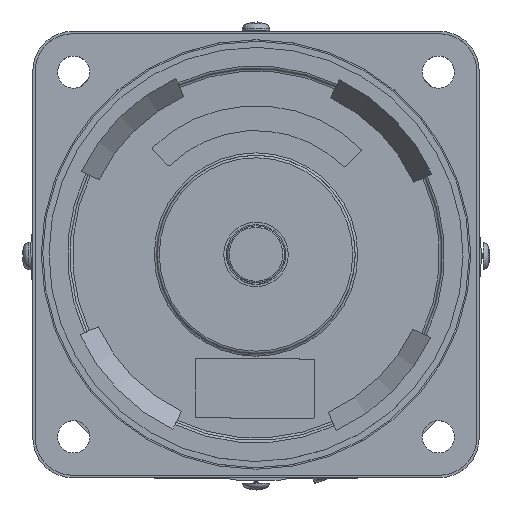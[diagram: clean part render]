
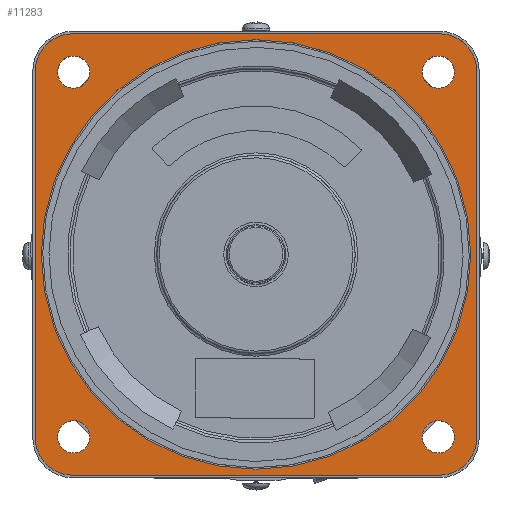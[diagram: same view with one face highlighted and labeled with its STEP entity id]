
A CAD part, top view. The second image highlights one B-rep face of the part: STEP entity #11283.
In plain terms, the highlighted planar face has unit normal (0, 0, 1).
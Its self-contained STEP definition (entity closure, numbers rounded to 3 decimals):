
#590=FACE_BOUND('',#1622,.T.);
#591=FACE_BOUND('',#1623,.T.);
#592=FACE_BOUND('',#1624,.T.);
#593=FACE_BOUND('',#1625,.T.);
#594=FACE_BOUND('',#1626,.T.);
#717=PLANE('',#11961);
#974=FACE_OUTER_BOUND('',#1621,.T.);
#1621=EDGE_LOOP('',(#7221,#7222,#7223,#7224,#7225,#7226,#7227,#7228));
#1622=EDGE_LOOP('',(#7229));
#1623=EDGE_LOOP('',(#7230));
#1624=EDGE_LOOP('',(#7231));
#1625=EDGE_LOOP('',(#7232));
#1626=EDGE_LOOP('',(#7233));
#2441=CIRCLE('',#11962,7.5);
#2442=CIRCLE('',#11963,7.5);
#2443=CIRCLE('',#11964,7.5);
#2444=CIRCLE('',#11965,7.5);
#2445=CIRCLE('',#11966,3.25);
#2446=CIRCLE('',#11967,3.25);
#2447=CIRCLE('',#11968,43.3);
#2448=CIRCLE('',#11969,3.25);
#2449=CIRCLE('',#11970,3.25);
#3148=LINE('',#16683,#3795);
#3149=LINE('',#16687,#3796);
#3150=LINE('',#16691,#3797);
#3151=LINE('',#16694,#3798);
#3795=VECTOR('',#13323,74.);
#3796=VECTOR('',#13326,74.);
#3797=VECTOR('',#13329,74.);
#3798=VECTOR('',#13332,74.);
#4454=VERTEX_POINT('',#16679);
#4455=VERTEX_POINT('',#16680);
#4456=VERTEX_POINT('',#16682);
#4457=VERTEX_POINT('',#16684);
#4458=VERTEX_POINT('',#16686);
#4459=VERTEX_POINT('',#16688);
#4460=VERTEX_POINT('',#16690);
#4461=VERTEX_POINT('',#16692);
#4462=VERTEX_POINT('',#16695);
#4463=VERTEX_POINT('',#16697);
#4464=VERTEX_POINT('',#16699);
#4465=VERTEX_POINT('',#16701);
#4466=VERTEX_POINT('',#16703);
#5551=EDGE_CURVE('',#4454,#4455,#2441,.T.);
#5552=EDGE_CURVE('',#4456,#4454,#3148,.T.);
#5553=EDGE_CURVE('',#4457,#4456,#2442,.T.);
#5554=EDGE_CURVE('',#4458,#4457,#3149,.T.);
#5555=EDGE_CURVE('',#4459,#4458,#2443,.T.);
#5556=EDGE_CURVE('',#4460,#4459,#3150,.T.);
#5557=EDGE_CURVE('',#4461,#4460,#2444,.T.);
#5558=EDGE_CURVE('',#4455,#4461,#3151,.T.);
#5559=EDGE_CURVE('',#4462,#4462,#2445,.F.);
#5560=EDGE_CURVE('',#4463,#4463,#2446,.F.);
#5561=EDGE_CURVE('',#4464,#4464,#2447,.T.);
#5562=EDGE_CURVE('',#4465,#4465,#2448,.F.);
#5563=EDGE_CURVE('',#4466,#4466,#2449,.F.);
#7221=ORIENTED_EDGE('',*,*,#5551,.F.);
#7222=ORIENTED_EDGE('',*,*,#5552,.F.);
#7223=ORIENTED_EDGE('',*,*,#5553,.F.);
#7224=ORIENTED_EDGE('',*,*,#5554,.F.);
#7225=ORIENTED_EDGE('',*,*,#5555,.F.);
#7226=ORIENTED_EDGE('',*,*,#5556,.F.);
#7227=ORIENTED_EDGE('',*,*,#5557,.F.);
#7228=ORIENTED_EDGE('',*,*,#5558,.F.);
#7229=ORIENTED_EDGE('',*,*,#5559,.F.);
#7230=ORIENTED_EDGE('',*,*,#5560,.F.);
#7231=ORIENTED_EDGE('',*,*,#5561,.T.);
#7232=ORIENTED_EDGE('',*,*,#5562,.F.);
#7233=ORIENTED_EDGE('',*,*,#5563,.F.);
#11283=ADVANCED_FACE('',(#974,#590,#591,#592,#593,#594),#717,.T.);
#11961=AXIS2_PLACEMENT_3D('',#16678,#13319,#13320);
#11962=AXIS2_PLACEMENT_3D('',#16681,#13321,#13322);
#11963=AXIS2_PLACEMENT_3D('',#16685,#13324,#13325);
#11964=AXIS2_PLACEMENT_3D('',#16689,#13327,#13328);
#11965=AXIS2_PLACEMENT_3D('',#16693,#13330,#13331);
#11966=AXIS2_PLACEMENT_3D('',#16696,#13333,#13334);
#11967=AXIS2_PLACEMENT_3D('',#16698,#13335,#13336);
#11968=AXIS2_PLACEMENT_3D('',#16700,#13337,#13338);
#11969=AXIS2_PLACEMENT_3D('',#16702,#13339,#13340);
#11970=AXIS2_PLACEMENT_3D('',#16704,#13341,#13342);
#13319=DIRECTION('center_axis',(0.,0.,1.));
#13320=DIRECTION('ref_axis',(1.,0.,0.));
#13321=DIRECTION('center_axis',(0.,0.,-1.));
#13322=DIRECTION('ref_axis',(0.,-1.,0.));
#13323=DIRECTION('',(0.,1.,0.));
#13324=DIRECTION('center_axis',(0.,0.,-1.));
#13325=DIRECTION('ref_axis',(1.,0.,0.));
#13326=DIRECTION('',(-1.,0.,0.));
#13327=DIRECTION('center_axis',(0.,0.,-1.));
#13328=DIRECTION('ref_axis',(0.,1.,0.));
#13329=DIRECTION('',(0.,-1.,0.));
#13330=DIRECTION('center_axis',(0.,0.,-1.));
#13331=DIRECTION('ref_axis',(-1.,0.,0.));
#13332=DIRECTION('',(1.,0.,0.));
#13333=DIRECTION('center_axis',(0.,0.,-1.));
#13334=DIRECTION('ref_axis',(0.,1.,0.));
#13335=DIRECTION('center_axis',(0.,0.,-1.));
#13336=DIRECTION('ref_axis',(-1.,0.,0.));
#13337=DIRECTION('center_axis',(0.,0.,-1.));
#13338=DIRECTION('ref_axis',(0.,1.,0.));
#13339=DIRECTION('center_axis',(0.,0.,-1.));
#13340=DIRECTION('ref_axis',(0.,-1.,0.));
#13341=DIRECTION('center_axis',(0.,0.,-1.));
#13342=DIRECTION('ref_axis',(1.,0.,0.));
#16678=CARTESIAN_POINT('Origin',(0.355,5.246,-6.569));
#16679=CARTESIAN_POINT('',(-44.145,42.246,-6.569));
#16680=CARTESIAN_POINT('',(-36.645,49.746,-6.569));
#16681=CARTESIAN_POINT('Origin',(-36.645,42.246,-6.569));
#16682=CARTESIAN_POINT('',(-44.145,-31.754,-6.569));
#16683=CARTESIAN_POINT('',(-44.145,-31.754,-6.569));
#16684=CARTESIAN_POINT('',(-36.645,-39.254,-6.569));
#16685=CARTESIAN_POINT('Origin',(-36.645,-31.754,-6.569));
#16686=CARTESIAN_POINT('',(37.355,-39.254,-6.569));
#16687=CARTESIAN_POINT('',(37.355,-39.254,-6.569));
#16688=CARTESIAN_POINT('',(44.855,-31.754,-6.569));
#16689=CARTESIAN_POINT('Origin',(37.355,-31.754,-6.569));
#16690=CARTESIAN_POINT('',(44.855,42.246,-6.569));
#16691=CARTESIAN_POINT('',(44.855,42.246,-6.569));
#16692=CARTESIAN_POINT('',(37.355,49.746,-6.569));
#16693=CARTESIAN_POINT('Origin',(37.355,42.246,-6.569));
#16694=CARTESIAN_POINT('',(-36.645,49.746,-6.569));
#16695=CARTESIAN_POINT('',(37.124,-34.774,-6.569));
#16696=CARTESIAN_POINT('Origin',(37.124,-31.524,-6.569));
#16697=CARTESIAN_POINT('',(40.374,42.015,-6.569));
#16698=CARTESIAN_POINT('Origin',(37.124,42.015,-6.569));
#16699=CARTESIAN_POINT('',(43.655,5.246,-6.569));
#16700=CARTESIAN_POINT('Origin',(0.355,5.246,-6.569));
#16701=CARTESIAN_POINT('',(-36.415,45.265,-6.569));
#16702=CARTESIAN_POINT('Origin',(-36.415,42.015,-6.569));
#16703=CARTESIAN_POINT('',(-39.665,-31.524,-6.569));
#16704=CARTESIAN_POINT('Origin',(-36.415,-31.524,-6.569));
